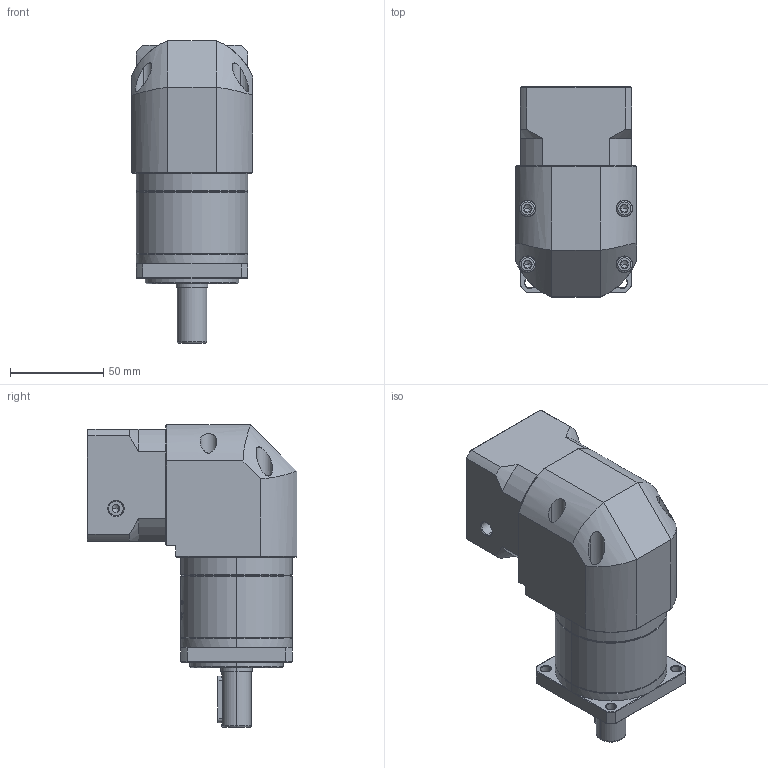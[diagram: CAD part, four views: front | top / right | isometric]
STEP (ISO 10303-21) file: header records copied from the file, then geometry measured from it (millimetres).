
FILE_DESCRIPTION (( 'STEP AP214' ), '1' );
FILE_NAME ('ZFR060-D16-L1-P2-11-50-70-M5.step', '2023-08-17T03:33:25', ( '' ), ( '' ), 'SwSTEP 2.0', 'SolidWorks 2016', '' );
FILE_SCHEMA (( 'AUTOMOTIVE_DESIGN' ));
Length unit declared in the file: millimetre
Products named in the file (1): ZFR060-D16-L1-P2-11-50-70-M5
Bounding box: 65 x 112.7 x 162.5 mm (x, y, z)
Volume: 538445.1 mm3; surface area: 78781.1 mm2
Topology: 5 solids, 6 shells, 1922 faces, 5153 edges, 3328 vertices
Faces by surface type: plane 847, cylinder 407, bspline 354, cone 290, torus 24
Entity records: 106602 total; most frequent: CARTESIAN_POINT 41534, ORIENTED_EDGE 10262, DIRECTION 7684, EDGE_CURVE 5131, VERTEX_POINT 3328, LINE 2614, VECTOR 2614, AXIS2_PLACEMENT_3D 2535
